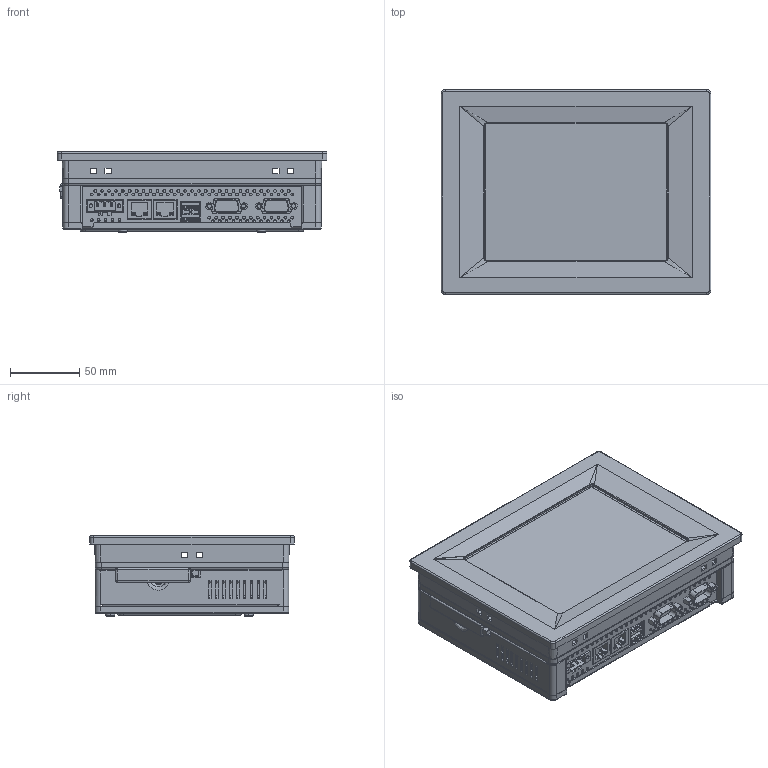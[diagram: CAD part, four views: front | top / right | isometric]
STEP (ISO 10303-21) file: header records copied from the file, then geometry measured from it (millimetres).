
FILE_DESCRIPTION((''),'2;1');
FILE_NAME('CU_NI_TPC-2206','2011-11-02T',('jpfaff'),(''),'PRO/ENGINEER BY PARAMETRIC TECHNOLOGY CORPORATION, 2010230','PRO/ENGINEER BY PARAMETRIC TECHNOLOGY CORPORATION, 2010230','');
FILE_SCHEMA(('CONFIG_CONTROL_DESIGN'));
Products named in the file (1): CU_NI_TPC-2206
Bounding box: 195 x 148 x 58.2 mm (x, y, z)
Volume: 234687.6 mm3; surface area: 308990.4 mm2
Topology: 3 solids, 3 shells, 4188 faces, 11570 edges, 7506 vertices
Faces by surface type: plane 2316, cylinder 1460, extrusion 156, torus 102, cone 102, bspline 42, sphere 8, revolution 2
Entity records: 145157 total; most frequent: CARTESIAN_POINT 35189, ORIENTED_EDGE 23124, DIRECTION 22425, EDGE_CURVE 11562, VECTOR 7953, LINE 7797, VERTEX_POINT 7506, AXIS2_PLACEMENT_3D 7235
